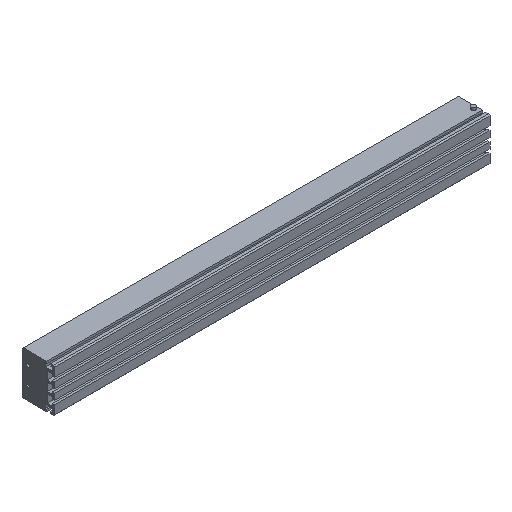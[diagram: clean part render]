
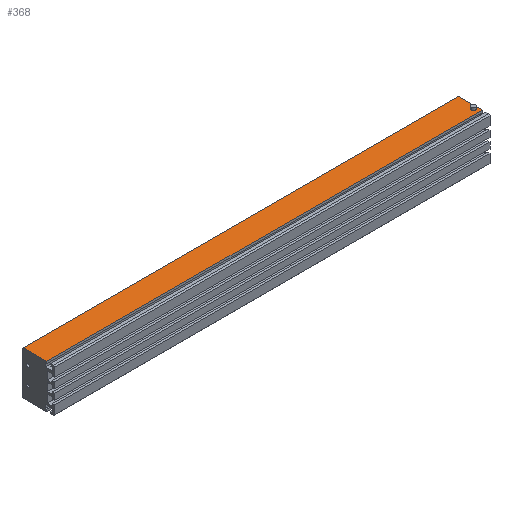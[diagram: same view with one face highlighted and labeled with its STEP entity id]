
A CAD part, isometric view. The second image highlights one B-rep face of the part: STEP entity #368.
In plain terms, the highlighted planar face has unit normal (0, 0, 1).
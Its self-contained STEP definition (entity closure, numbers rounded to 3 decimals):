
#10 = DIRECTION ( 'NONE',  ( -1., 0., 0. ) ) ;
#90 = CARTESIAN_POINT ( 'NONE',  ( 367.15, 11.392, 0. ) ) ;
#120 = CIRCLE ( 'NONE', #1291, 1.85 ) ;
#192 = CARTESIAN_POINT ( 'NONE',  ( 367.15, 11.392, 0. ) ) ;
#197 = EDGE_LOOP ( 'NONE', ( #2145, #324 ) ) ;
#207 = CARTESIAN_POINT ( 'NONE',  ( 370., 6.6, 0. ) ) ;
#209 = LINE ( 'NONE', #1845, #1233 ) ;
#238 = DIRECTION ( 'NONE',  ( 0., -1., 0. ) ) ;
#324 = ORIENTED_EDGE ( 'NONE', *, *, #780, .F. ) ;
#352 = DIRECTION ( 'NONE',  ( 0., -1., 0. ) ) ;
#368 = ADVANCED_FACE ( 'NONE', ( #557, #442 ), #1594, .F. ) ;
#378 = EDGE_CURVE ( 'NONE', #1758, #1916, #1149, .T. ) ;
#396 = LINE ( 'NONE', #898, #2191 ) ;
#442 = FACE_OUTER_BOUND ( 'NONE', #1757, .T. ) ;
#454 = CARTESIAN_POINT ( 'NONE',  ( 365.3, 11.392, 0. ) ) ;
#500 = AXIS2_PLACEMENT_3D ( 'NONE', #192, #878, #10 ) ;
#528 = DIRECTION ( 'NONE',  ( 1., 0., 0. ) ) ;
#537 = ORIENTED_EDGE ( 'NONE', *, *, #1242, .T. ) ;
#557 = FACE_BOUND ( 'NONE', #197, .T. ) ;
#632 = VERTEX_POINT ( 'NONE', #454 ) ;
#640 = ORIENTED_EDGE ( 'NONE', *, *, #1023, .T. ) ;
#652 = AXIS2_PLACEMENT_3D ( 'NONE', #1950, #1035, #1582 ) ;
#773 = CARTESIAN_POINT ( 'NONE',  ( 370., 26.7, 0. ) ) ;
#780 = EDGE_CURVE ( 'NONE', #1608, #632, #120, .T. ) ;
#878 = DIRECTION ( 'NONE',  ( 0., 0., 1. ) ) ;
#898 = CARTESIAN_POINT ( 'NONE',  ( 0., 6.6, 0. ) ) ;
#899 = ORIENTED_EDGE ( 'NONE', *, *, #954, .T. ) ;
#954 = EDGE_CURVE ( 'NONE', #1758, #1265, #1285, .T. ) ;
#974 = VERTEX_POINT ( 'NONE', #1493 ) ;
#999 = CIRCLE ( 'NONE', #500, 1.85 ) ;
#1023 = EDGE_CURVE ( 'NONE', #1265, #974, #209, .T. ) ;
#1035 = DIRECTION ( 'NONE',  ( 0., 0., -1. ) ) ;
#1149 = LINE ( 'NONE', #2134, #2185 ) ;
#1233 = VECTOR ( 'NONE', #238, 1000. ) ;
#1242 = EDGE_CURVE ( 'NONE', #974, #1916, #396, .T. ) ;
#1265 = VERTEX_POINT ( 'NONE', #1804 ) ;
#1275 = ORIENTED_EDGE ( 'NONE', *, *, #378, .F. ) ;
#1285 = LINE ( 'NONE', #773, #2245 ) ;
#1291 = AXIS2_PLACEMENT_3D ( 'NONE', #90, #2088, #1571 ) ;
#1359 = CARTESIAN_POINT ( 'NONE',  ( 369., 11.392, 0. ) ) ;
#1493 = CARTESIAN_POINT ( 'NONE',  ( 0., 6.6, 0. ) ) ;
#1571 = DIRECTION ( 'NONE',  ( -1., 0., 0. ) ) ;
#1582 = DIRECTION ( 'NONE',  ( -1., 0., 0. ) ) ;
#1594 = PLANE ( 'NONE',  #652 ) ;
#1608 = VERTEX_POINT ( 'NONE', #1359 ) ;
#1661 = DIRECTION ( 'NONE',  ( -1., 0., 0. ) ) ;
#1757 = EDGE_LOOP ( 'NONE', ( #1275, #899, #640, #537 ) ) ;
#1758 = VERTEX_POINT ( 'NONE', #1776 ) ;
#1776 = CARTESIAN_POINT ( 'NONE',  ( 370., 26.7, 0. ) ) ;
#1804 = CARTESIAN_POINT ( 'NONE',  ( 0., 26.7, 0. ) ) ;
#1845 = CARTESIAN_POINT ( 'NONE',  ( 0., 0., 0. ) ) ;
#1916 = VERTEX_POINT ( 'NONE', #207 ) ;
#1950 = CARTESIAN_POINT ( 'NONE',  ( 370., 0., 0. ) ) ;
#2088 = DIRECTION ( 'NONE',  ( 0., 0., 1. ) ) ;
#2134 = CARTESIAN_POINT ( 'NONE',  ( 370., 0., 0. ) ) ;
#2145 = ORIENTED_EDGE ( 'NONE', *, *, #2323, .F. ) ;
#2185 = VECTOR ( 'NONE', #352, 1000. ) ;
#2191 = VECTOR ( 'NONE', #528, 1000. ) ;
#2245 = VECTOR ( 'NONE', #1661, 1000. ) ;
#2323 = EDGE_CURVE ( 'NONE', #632, #1608, #999, .T. ) ;
